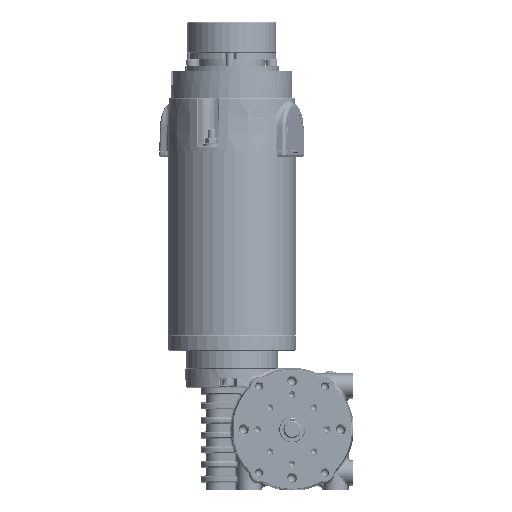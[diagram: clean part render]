
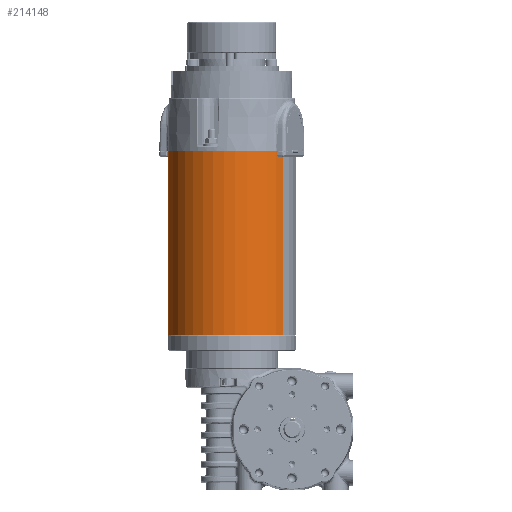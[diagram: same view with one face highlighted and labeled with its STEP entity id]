
A CAD part, left-side view. The second image highlights one B-rep face of the part: STEP entity #214148.
In plain terms, the highlighted cylindrical face has radius 37.15 mm (diameter 74.3 mm), a partial arc.
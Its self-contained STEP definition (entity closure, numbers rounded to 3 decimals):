
#6962 = LINE ( 'NONE', #399442, #48587 ) ;
#29337 = ORIENTED_EDGE ( 'NONE', *, *, #380595, .T. ) ;
#29485 = AXIS2_PLACEMENT_3D ( 'NONE', #337300, #112051, #240834 ) ;
#47904 = CARTESIAN_POINT ( 'NONE',  ( -16.926, -15.079, 50.358 ) ) ;
#48587 = VECTOR ( 'NONE', #288927, 1000. ) ;
#51983 = VERTEX_POINT ( 'NONE', #47904 ) ;
#96772 = DIRECTION ( 'NONE',  ( 0., 0., 1. ) ) ;
#101900 = ORIENTED_EDGE ( 'NONE', *, *, #298759, .T. ) ;
#108058 = EDGE_LOOP ( 'NONE', ( #351897, #375251, #29337, #101900 ) ) ;
#112051 = DIRECTION ( 'NONE',  ( 0., 0., -1. ) ) ;
#112872 = CIRCLE ( 'NONE', #352471, 37.15 ) ;
#130566 = CARTESIAN_POINT ( 'NONE',  ( 27.455, 44.51, 50.358 ) ) ;
#132830 = FACE_OUTER_BOUND ( 'NONE', #108058, .T. ) ;
#160494 = CARTESIAN_POINT ( 'NONE',  ( 5.264, 14.716, 50.358 ) ) ;
#194200 = VERTEX_POINT ( 'NONE', #220757 ) ;
#203447 = CYLINDRICAL_SURFACE ( 'NONE', #407340, 37.15 ) ;
#214148 = ADVANCED_FACE ( 'NONE', ( #132830 ), #203447, .T. ) ;
#216177 = CARTESIAN_POINT ( 'NONE',  ( 5.264, 14.716, 50.358 ) ) ;
#220757 = CARTESIAN_POINT ( 'NONE',  ( -16.926, -15.079, 156.358 ) ) ;
#225359 = EDGE_CURVE ( 'NONE', #51983, #244451, #112872, .T. ) ;
#225519 = LINE ( 'NONE', #356265, #265555 ) ;
#240834 = DIRECTION ( 'NONE',  ( 0.597, 0.802, 0. ) ) ;
#244451 = VERTEX_POINT ( 'NONE', #130566 ) ;
#265555 = VECTOR ( 'NONE', #96772, 1000. ) ;
#269879 = CARTESIAN_POINT ( 'NONE',  ( 27.455, 44.51, 156.358 ) ) ;
#288927 = DIRECTION ( 'NONE',  ( 0., 0., 1. ) ) ;
#289972 = CIRCLE ( 'NONE', #29485, 37.15 ) ;
#298759 = EDGE_CURVE ( 'NONE', #194200, #370561, #289972, .T. ) ;
#308647 = DIRECTION ( 'NONE',  ( 0., 0., 1. ) ) ;
#337300 = CARTESIAN_POINT ( 'NONE',  ( 5.264, 14.716, 156.358 ) ) ;
#346887 = DIRECTION ( 'NONE',  ( -0.597, -0.802, 0. ) ) ;
#351897 = ORIENTED_EDGE ( 'NONE', *, *, #360626, .F. ) ;
#352471 = AXIS2_PLACEMENT_3D ( 'NONE', #160494, #394098, #387776 ) ;
#356265 = CARTESIAN_POINT ( 'NONE',  ( 27.455, 44.51, 50.358 ) ) ;
#360626 = EDGE_CURVE ( 'NONE', #244451, #370561, #225519, .T. ) ;
#370561 = VERTEX_POINT ( 'NONE', #269879 ) ;
#375251 = ORIENTED_EDGE ( 'NONE', *, *, #225359, .F. ) ;
#380595 = EDGE_CURVE ( 'NONE', #51983, #194200, #6962, .T. ) ;
#387776 = DIRECTION ( 'NONE',  ( 0.597, 0.802, 0. ) ) ;
#394098 = DIRECTION ( 'NONE',  ( 0., 0., -1. ) ) ;
#399442 = CARTESIAN_POINT ( 'NONE',  ( -16.926, -15.079, 50.358 ) ) ;
#407340 = AXIS2_PLACEMENT_3D ( 'NONE', #216177, #308647, #346887 ) ;
